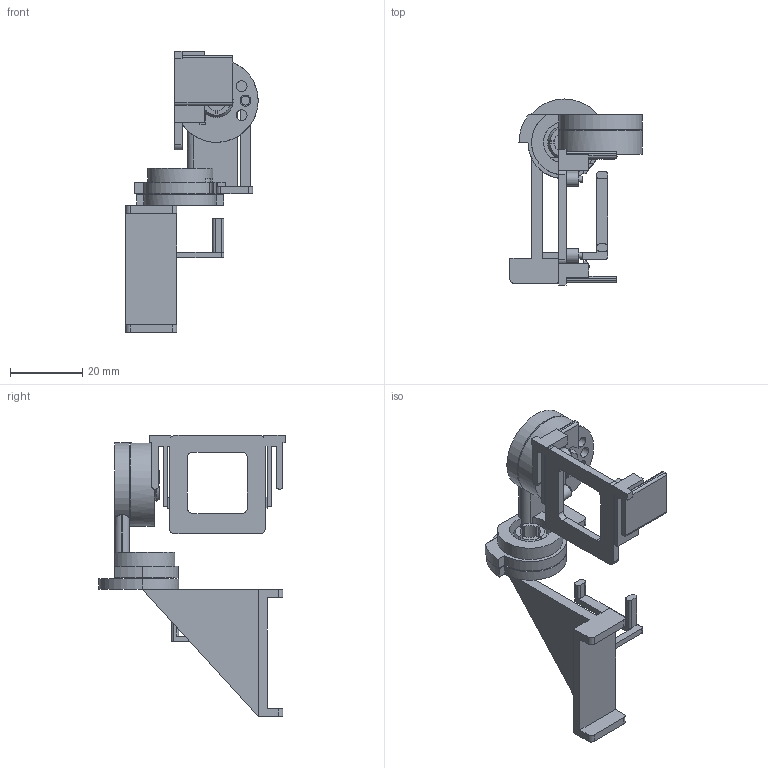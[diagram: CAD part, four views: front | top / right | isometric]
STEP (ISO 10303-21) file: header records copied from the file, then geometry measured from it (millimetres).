
FILE_DESCRIPTION(('Open CASCADE Model'),'2;1');
FILE_NAME('Open CASCADE Shape Model','2026-10-14T00:43:51',('Author'),( 'Open CASCADE'),'Open CASCADE STEP processor 8.0','build123d', 'Unknown');
FILE_SCHEMA(('AUTOMOTIVE_DESIGN { 1 0 10303 214 1 1 1 1 }'));
Length unit declared in the file: millimetre
Products named in the file (4): COMPOUND
Assembly tree (3 placements, depth 2):
  COMPOUND
    COMPOUND
    COMPOUND
    COMPOUND
Bounding box: 36.5 x 51.4 x 77.6 mm (x, y, z)
Volume: 12911.5 mm3; surface area: 12374.5 mm2
Topology: 3 solids, 3 shells, 262 faces, 728 edges, 479 vertices
Faces by surface type: plane 163, cylinder 83, cone 16
Full cylindrical faces by diameter (mm): 1.65 x4, 2 x1, 2.4 x1, 2.6 x1, 3 x3, 3.8 x4, 8 x2, 8.6 x1, 23 x1
Entity records: 18167 total; most frequent: CARTESIAN_POINT 4081, DIRECTION 2524, ORIENTED_EDGE 1456, PCURVE 1456, DEFINITIONAL_REPRESENTATION 1456, LINE 1360, VECTOR 1360, EDGE_CURVE 728
